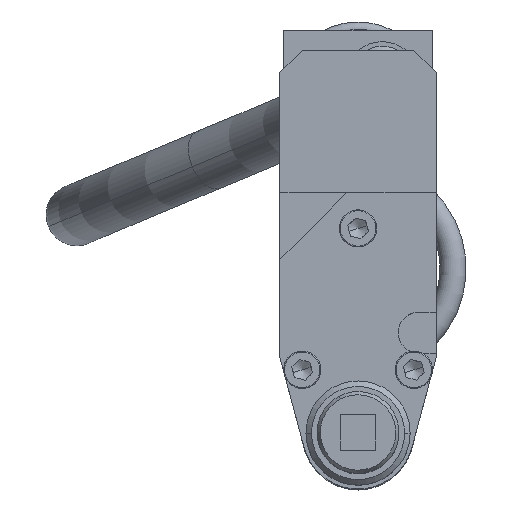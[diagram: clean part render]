
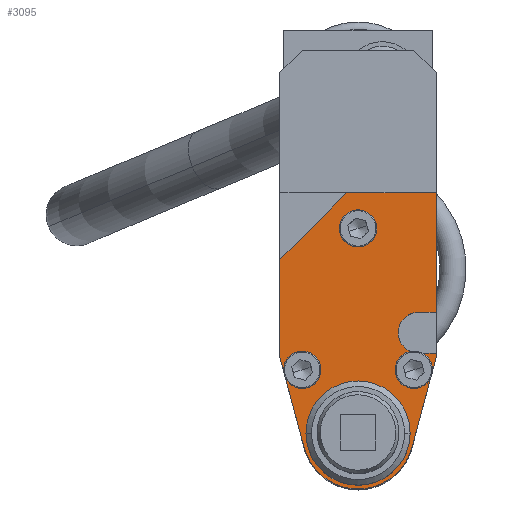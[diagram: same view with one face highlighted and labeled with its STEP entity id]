
A CAD part, top view. The second image highlights one B-rep face of the part: STEP entity #3095.
In plain terms, the highlighted planar face has unit normal (0, 0, 1).
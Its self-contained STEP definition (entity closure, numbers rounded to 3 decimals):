
#2904=CARTESIAN_POINT('Axis2P3D Location',(-15.,-26.54,425.1)) ;
#2908=CARTESIAN_POINT('Vertex',(-11.965,-28.198,425.1)) ;
#2910=CARTESIAN_POINT('Vertex',(-18.035,-24.882,425.1)) ;
#2930=CARTESIAN_POINT('Axis2P3D Location',(-15.,-26.54,425.1)) ;
#2942=CARTESIAN_POINT('Axis2P3D Location',(0.,-43.54,425.1)) ;
#2947=CARTESIAN_POINT('Line Origine',(18.65,-22.04,425.1)) ;
#2951=CARTESIAN_POINT('Vertex',(16.3,-22.04,425.1)) ;
#2953=CARTESIAN_POINT('Vertex',(21.,-22.04,425.1)) ;
#2956=CARTESIAN_POINT('Axis2P3D Location',(16.3,-16.54,425.1)) ;
#2960=CARTESIAN_POINT('Vertex',(16.3,-11.04,425.1)) ;
#2963=CARTESIAN_POINT('Line Origine',(18.65,-11.04,425.1)) ;
#2967=CARTESIAN_POINT('Vertex',(21.,-11.04,425.1)) ;
#2970=CARTESIAN_POINT('Line Origine',(21.,5.01,425.1)) ;
#2974=CARTESIAN_POINT('Vertex',(21.,21.06,425.1)) ;
#2977=CARTESIAN_POINT('Line Origine',(9.,21.06,425.1)) ;
#2981=CARTESIAN_POINT('Vertex',(-3.,21.06,425.1)) ;
#2984=CARTESIAN_POINT('Line Origine',(-12.,12.06,425.1)) ;
#2988=CARTESIAN_POINT('Vertex',(-21.,3.06,425.1)) ;
#2991=CARTESIAN_POINT('Line Origine',(-21.,-10.031,425.1)) ;
#2995=CARTESIAN_POINT('Vertex',(-21.,-23.122,425.1)) ;
#2998=CARTESIAN_POINT('Line Origine',(-17.744,-35.272,425.1)) ;
#3002=CARTESIAN_POINT('Vertex',(-14.489,-47.422,425.1)) ;
#3005=CARTESIAN_POINT('Axis2P3D Location',(0.,-43.54,425.1)) ;
#3009=CARTESIAN_POINT('Vertex',(14.489,-47.422,425.1)) ;
#3012=CARTESIAN_POINT('Line Origine',(17.744,-35.272,425.1)) ;
#3016=CARTESIAN_POINT('Vertex',(21.,-23.122,425.1)) ;
#3019=CARTESIAN_POINT('Line Origine',(21.,-22.581,425.1)) ;
#3041=CARTESIAN_POINT('Axis2P3D Location',(15.,-26.54,425.1)) ;
#3045=CARTESIAN_POINT('Vertex',(11.965,-24.882,425.1)) ;
#3047=CARTESIAN_POINT('Vertex',(18.035,-28.198,425.1)) ;
#3050=CARTESIAN_POINT('Axis2P3D Location',(15.,-26.54,425.1)) ;
#3059=CARTESIAN_POINT('Axis2P3D Location',(0.,11.46,425.1)) ;
#3063=CARTESIAN_POINT('Vertex',(-3.035,13.118,425.1)) ;
#3065=CARTESIAN_POINT('Vertex',(3.035,9.802,425.1)) ;
#3068=CARTESIAN_POINT('Axis2P3D Location',(0.,11.46,425.1)) ;
#3077=CARTESIAN_POINT('Axis2P3D Location',(0.,-43.54,425.1)) ;
#3081=CARTESIAN_POINT('Vertex',(14.,-43.54,425.1)) ;
#3083=CARTESIAN_POINT('Vertex',(-14.,-43.54,425.1)) ;
#3086=CARTESIAN_POINT('Axis2P3D Location',(0.,-43.54,425.1)) ;
#2905=DIRECTION('Axis2P3D Direction',(0.,0.,1.)) ;
#2931=DIRECTION('Axis2P3D Direction',(0.,0.,1.)) ;
#2943=DIRECTION('Axis2P3D Direction',(0.,0.,1.)) ;
#2944=DIRECTION('Axis2P3D XDirection',(1.,0.,0.)) ;
#2948=DIRECTION('Vector Direction',(1.,0.,0.)) ;
#2957=DIRECTION('Axis2P3D Direction',(0.,0.,1.)) ;
#2964=DIRECTION('Vector Direction',(-1.,0.,0.)) ;
#2971=DIRECTION('Vector Direction',(0.,-1.,0.)) ;
#2978=DIRECTION('Vector Direction',(1.,0.,0.)) ;
#2985=DIRECTION('Vector Direction',(-0.707,-0.707,0.)) ;
#2992=DIRECTION('Vector Direction',(0.,1.,0.)) ;
#2999=DIRECTION('Vector Direction',(-0.259,0.966,0.)) ;
#3006=DIRECTION('Axis2P3D Direction',(0.,0.,1.)) ;
#3013=DIRECTION('Vector Direction',(-0.259,-0.966,0.)) ;
#3020=DIRECTION('Vector Direction',(0.,-1.,0.)) ;
#3042=DIRECTION('Axis2P3D Direction',(0.,0.,1.)) ;
#3051=DIRECTION('Axis2P3D Direction',(0.,0.,1.)) ;
#3060=DIRECTION('Axis2P3D Direction',(0.,0.,1.)) ;
#3069=DIRECTION('Axis2P3D Direction',(0.,0.,1.)) ;
#3078=DIRECTION('Axis2P3D Direction',(0.,0.,1.)) ;
#3087=DIRECTION('Axis2P3D Direction',(0.,0.,1.)) ;
#2906=AXIS2_PLACEMENT_3D('Circle Axis2P3D',#2904,#2905,$) ;
#2932=AXIS2_PLACEMENT_3D('Circle Axis2P3D',#2930,#2931,$) ;
#2945=AXIS2_PLACEMENT_3D('Plane Axis2P3D',#2942,#2943,#2944) ;
#2958=AXIS2_PLACEMENT_3D('Circle Axis2P3D',#2956,#2957,$) ;
#3007=AXIS2_PLACEMENT_3D('Circle Axis2P3D',#3005,#3006,$) ;
#3043=AXIS2_PLACEMENT_3D('Circle Axis2P3D',#3041,#3042,$) ;
#3052=AXIS2_PLACEMENT_3D('Circle Axis2P3D',#3050,#3051,$) ;
#3061=AXIS2_PLACEMENT_3D('Circle Axis2P3D',#3059,#3060,$) ;
#3070=AXIS2_PLACEMENT_3D('Circle Axis2P3D',#3068,#3069,$) ;
#3079=AXIS2_PLACEMENT_3D('Circle Axis2P3D',#3077,#3078,$) ;
#3088=AXIS2_PLACEMENT_3D('Circle Axis2P3D',#3086,#3087,$) ;
#3025=ORIENTED_EDGE('',*,*,#2955,.F.) ;
#3026=ORIENTED_EDGE('',*,*,#2962,.F.) ;
#3027=ORIENTED_EDGE('',*,*,#2969,.F.) ;
#3028=ORIENTED_EDGE('',*,*,#2976,.F.) ;
#3029=ORIENTED_EDGE('',*,*,#2983,.F.) ;
#3030=ORIENTED_EDGE('',*,*,#2990,.T.) ;
#3031=ORIENTED_EDGE('',*,*,#2997,.F.) ;
#3032=ORIENTED_EDGE('',*,*,#3004,.F.) ;
#3033=ORIENTED_EDGE('',*,*,#3011,.F.) ;
#3034=ORIENTED_EDGE('',*,*,#3018,.F.) ;
#3035=ORIENTED_EDGE('',*,*,#3023,.F.) ;
#3038=ORIENTED_EDGE('',*,*,#2934,.F.) ;
#3039=ORIENTED_EDGE('',*,*,#2912,.F.) ;
#3056=ORIENTED_EDGE('',*,*,#3049,.F.) ;
#3057=ORIENTED_EDGE('',*,*,#3054,.F.) ;
#3074=ORIENTED_EDGE('',*,*,#3067,.F.) ;
#3075=ORIENTED_EDGE('',*,*,#3072,.F.) ;
#3092=ORIENTED_EDGE('',*,*,#3085,.F.) ;
#3093=ORIENTED_EDGE('',*,*,#3090,.F.) ;
#3040=FACE_BOUND('',#3037,.T.) ;
#3058=FACE_BOUND('',#3055,.T.) ;
#3076=FACE_BOUND('',#3073,.T.) ;
#3094=FACE_BOUND('',#3091,.T.) ;
#2949=VECTOR('Line Direction',#2948,1.) ;
#2965=VECTOR('Line Direction',#2964,1.) ;
#2972=VECTOR('Line Direction',#2971,1.) ;
#2979=VECTOR('Line Direction',#2978,1.) ;
#2986=VECTOR('Line Direction',#2985,1.) ;
#2993=VECTOR('Line Direction',#2992,1.) ;
#3000=VECTOR('Line Direction',#2999,1.) ;
#3014=VECTOR('Line Direction',#3013,1.) ;
#3021=VECTOR('Line Direction',#3020,1.) ;
#3095=ADVANCED_FACE('',(#3036,#3040,#3058,#3076,#3094),#2946,.T.) ;
#2907=CIRCLE('generated circle',#2906,3.459) ;
#2933=CIRCLE('generated circle',#2932,3.459) ;
#2959=CIRCLE('generated circle',#2958,5.5) ;
#3008=CIRCLE('generated circle',#3007,15.) ;
#3044=CIRCLE('generated circle',#3043,3.459) ;
#3053=CIRCLE('generated circle',#3052,3.459) ;
#3062=CIRCLE('generated circle',#3061,3.459) ;
#3071=CIRCLE('generated circle',#3070,3.459) ;
#3080=CIRCLE('generated circle',#3079,14.) ;
#3089=CIRCLE('generated circle',#3088,14.) ;
#2912=EDGE_CURVE('',#2909,#2911,#2907,.T.) ;
#2934=EDGE_CURVE('',#2911,#2909,#2933,.T.) ;
#2955=EDGE_CURVE('',#2952,#2954,#2950,.T.) ;
#2962=EDGE_CURVE('',#2961,#2952,#2959,.T.) ;
#2969=EDGE_CURVE('',#2968,#2961,#2966,.T.) ;
#2976=EDGE_CURVE('',#2975,#2968,#2973,.T.) ;
#2983=EDGE_CURVE('',#2982,#2975,#2980,.T.) ;
#2990=EDGE_CURVE('',#2982,#2989,#2987,.T.) ;
#2997=EDGE_CURVE('',#2996,#2989,#2994,.T.) ;
#3004=EDGE_CURVE('',#3003,#2996,#3001,.T.) ;
#3011=EDGE_CURVE('',#3010,#3003,#3008,.F.) ;
#3018=EDGE_CURVE('',#3017,#3010,#3015,.T.) ;
#3023=EDGE_CURVE('',#2954,#3017,#3022,.T.) ;
#3049=EDGE_CURVE('',#3046,#3048,#3044,.T.) ;
#3054=EDGE_CURVE('',#3048,#3046,#3053,.T.) ;
#3067=EDGE_CURVE('',#3064,#3066,#3062,.T.) ;
#3072=EDGE_CURVE('',#3066,#3064,#3071,.T.) ;
#3085=EDGE_CURVE('',#3082,#3084,#3080,.T.) ;
#3090=EDGE_CURVE('',#3084,#3082,#3089,.T.) ;
#3024=EDGE_LOOP('',(#3025,#3026,#3027,#3028,#3029,#3030,#3031,#3032,#3033,#3034,#3035)) ;
#3037=EDGE_LOOP('',(#3038,#3039)) ;
#3055=EDGE_LOOP('',(#3056,#3057)) ;
#3073=EDGE_LOOP('',(#3074,#3075)) ;
#3091=EDGE_LOOP('',(#3092,#3093)) ;
#3036=FACE_OUTER_BOUND('',#3024,.T.) ;
#2950=LINE('Line',#2947,#2949) ;
#2966=LINE('Line',#2963,#2965) ;
#2973=LINE('Line',#2970,#2972) ;
#2980=LINE('Line',#2977,#2979) ;
#2987=LINE('Line',#2984,#2986) ;
#2994=LINE('Line',#2991,#2993) ;
#3001=LINE('Line',#2998,#3000) ;
#3015=LINE('Line',#3012,#3014) ;
#3022=LINE('Line',#3019,#3021) ;
#2946=PLANE('Plane',#2945) ;
#2909=VERTEX_POINT('',#2908) ;
#2911=VERTEX_POINT('',#2910) ;
#2952=VERTEX_POINT('',#2951) ;
#2954=VERTEX_POINT('',#2953) ;
#2961=VERTEX_POINT('',#2960) ;
#2968=VERTEX_POINT('',#2967) ;
#2975=VERTEX_POINT('',#2974) ;
#2982=VERTEX_POINT('',#2981) ;
#2989=VERTEX_POINT('',#2988) ;
#2996=VERTEX_POINT('',#2995) ;
#3003=VERTEX_POINT('',#3002) ;
#3010=VERTEX_POINT('',#3009) ;
#3017=VERTEX_POINT('',#3016) ;
#3046=VERTEX_POINT('',#3045) ;
#3048=VERTEX_POINT('',#3047) ;
#3064=VERTEX_POINT('',#3063) ;
#3066=VERTEX_POINT('',#3065) ;
#3082=VERTEX_POINT('',#3081) ;
#3084=VERTEX_POINT('',#3083) ;
